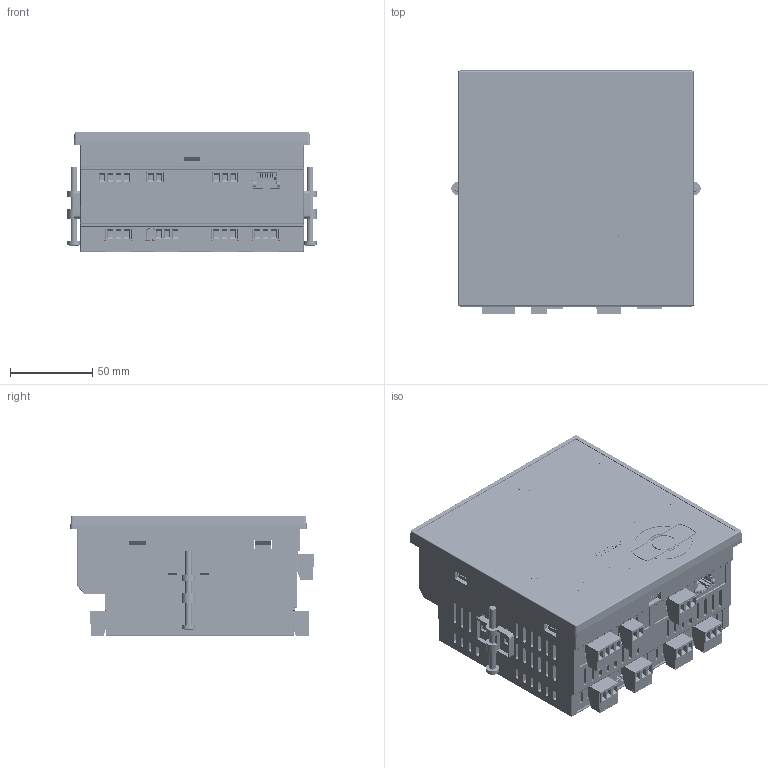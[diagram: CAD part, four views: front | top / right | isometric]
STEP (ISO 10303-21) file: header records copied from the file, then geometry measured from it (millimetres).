
FILE_DESCRIPTION (( 'STEP AP214' ), '1' );
FILE_NAME ('AM3000.STEP', '2017-02-15T05:51:05', ( '' ), ( '' ), 'SwSTEP 2.0', 'SolidWorks 2017', '' );
FILE_SCHEMA (( 'AUTOMOTIVE_DESIGN' ));
Length unit declared in the file: millimetre
Products named in the file (1): AM3000
Bounding box: 152 x 148.25 x 73.7 mm (x, y, z)
Surface area: 287446.6 mm2 (no closed solid volume)
Topology: 0 solids, 67 shells, 8484 faces, 23065 edges, 15015 vertices
Faces by surface type: plane 6340, cylinder 1539, cone 317, bspline 246, sphere 26, torus 16
Entity records: 367576 total; most frequent: CARTESIAN_POINT 58572, ORIENTED_EDGE 46000, DIRECTION 42296, EDGE_CURVE 23015, VECTOR 18508, LINE 18508, VERTEX_POINT 15015, AXIS2_PLACEMENT_3D 11894
